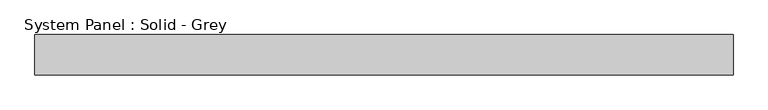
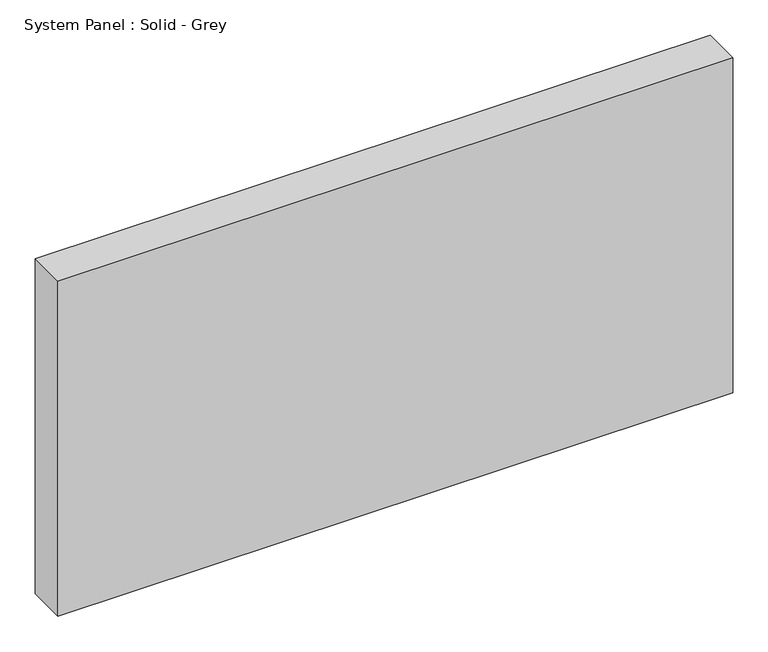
"""IFC4 building model written with IfcOpenShell, lengths in millimetres: plate geometry, System Panel : Solid - Grey."""

from ifc_helpers import new_model, si_unit, origin, origin_with_axes, place, context, project, spatial, polyline, outline, extrude, source, transform, mapped, element, save


def system_panel_solid_grey_abbc35b1(model_context):
    return source(origin(), model_context, "Body", "SweptSolid", [
        extrude(outline(polyline([(550.2296005, -19.05), (-550.2296005, -19.05), (-550.2296005, 44.45), (550.2296005, 44.45), (550.2296005, -19.05)])), origin_with_axes(), (0.0, 0.0, 1.0), 577.85),
    ])


if __name__ == "__main__":
    model = new_model("IFC4")
    model_context = context("Model", 3, world=origin())
    ifc_project = project(units=[si_unit("LENGTHUNIT", "METRE", prefix="MILLI")], contexts=[model_context])
    site = spatial("IfcSite", under=ifc_project)
    building = spatial("IfcBuilding", under=site)
    placement = place(None, origin())
    system_panel_solid_grey_shape = system_panel_solid_grey_abbc35b1(model_context)
    element("IfcPlate", 1, ObjectType="System Panel : Solid - Grey", at=placement, inside=building, context=model_context, shape_type="MappedRepresentation", body=[
        mapped(system_panel_solid_grey_shape, transform((0.0, 0.0, 0.0), x_axis=(1.0, 0.0, 0.0), y_axis=(0.0, 1.0, 0.0), z_axis=(0.0, 0.0, 1.0))),
    ])
    save(model, "model.ifc")
